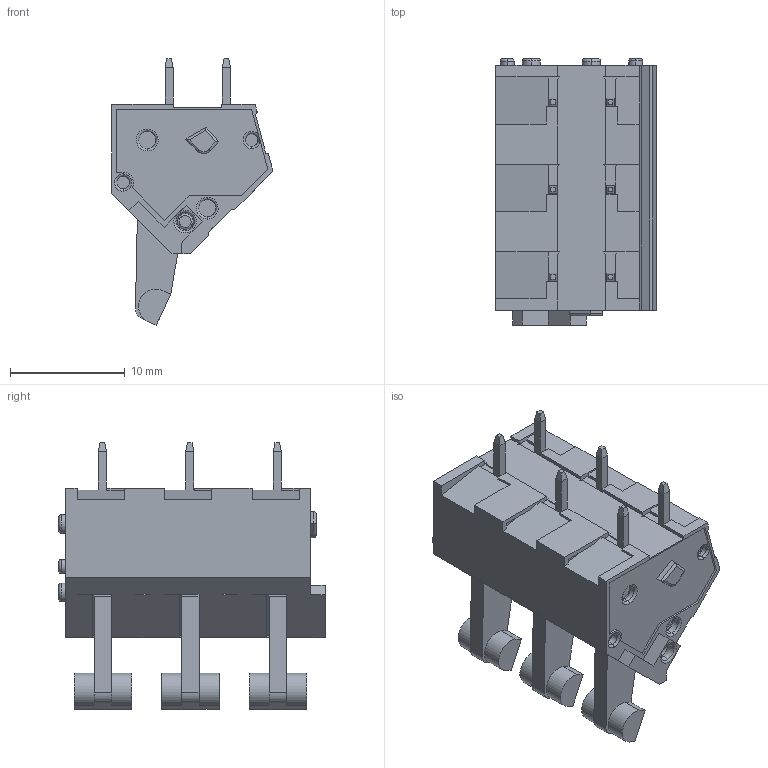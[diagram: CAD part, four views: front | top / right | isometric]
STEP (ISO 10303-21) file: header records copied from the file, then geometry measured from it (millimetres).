
FILE_DESCRIPTION((''),'2;1');
FILE_NAME('HT-03_SW0001','2019-05-13T',('zhenbing.lai'),(''),'CREO PARAMETRIC BY PTC INC, 2016260','CREO PARAMETRIC BY PTC INC, 2016260','');
FILE_SCHEMA(('CONFIG_CONTROL_DESIGN'));
Length unit declared in the file: millimetre
Products named in the file (1): HT-03_SW0001
Bounding box: 14 x 23.22 x 23.25 mm (x, y, z)
Volume: 2953.8 mm3; surface area: 1924.7 mm2
Topology: 1 solids, 4 shells, 456 faces, 1209 edges, 786 vertices
Faces by surface type: plane 346, cylinder 72, torus 25, cone 8, bspline 5
Entity records: 14278 total; most frequent: CARTESIAN_POINT 2785, ORIENTED_EDGE 2418, DIRECTION 2308, EDGE_CURVE 1209, VECTOR 962, LINE 962, VERTEX_POINT 786, AXIS2_PLACEMENT_3D 673
